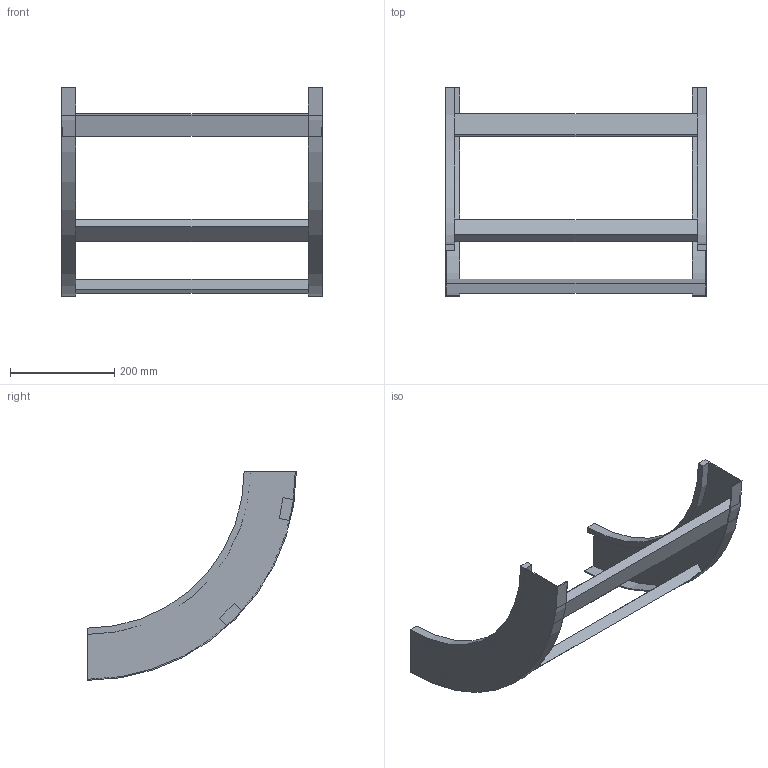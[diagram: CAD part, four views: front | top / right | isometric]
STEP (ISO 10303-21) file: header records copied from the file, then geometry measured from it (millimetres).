
FILE_DESCRIPTION (( 'STEP AP214' ), '1' );
FILE_NAME ('B2X30B3D500XX.step', '2025-03-20T10:20:17', ( '' ), ( '' ), 'SwSTEP 2.0', 'SolidWorks 2023', '' );
FILE_SCHEMA (( 'AUTOMOTIVE_DESIGN' ));
Length unit declared in the file: millimetre
Products named in the file (3): TRAVERSINO_500; B2X30B3D500XX; B2_LONGH.SALITA_90°_H100_R300
Assembly tree (5 placements, depth 2):
  B2X30B3D500XX
    B2_LONGH.SALITA_90°_H100_R300  x2
    TRAVERSINO_500  x3
Bounding box: 500 x 400 x 400 mm (x, y, z)
Volume: 1672441.1 mm3; surface area: 504423 mm2
Topology: 5 solids, 5 shells, 38 faces, 84 edges, 56 vertices
Faces by surface type: plane 30, cylinder 8
Entity records: 560 total; most frequent: DIRECTION 92, CARTESIAN_POINT 84, ORIENTED_EDGE 72, EDGE_CURVE 36, AXIS2_PLACEMENT_3D 32, VECTOR 28, LINE 28, VERTEX_POINT 24
